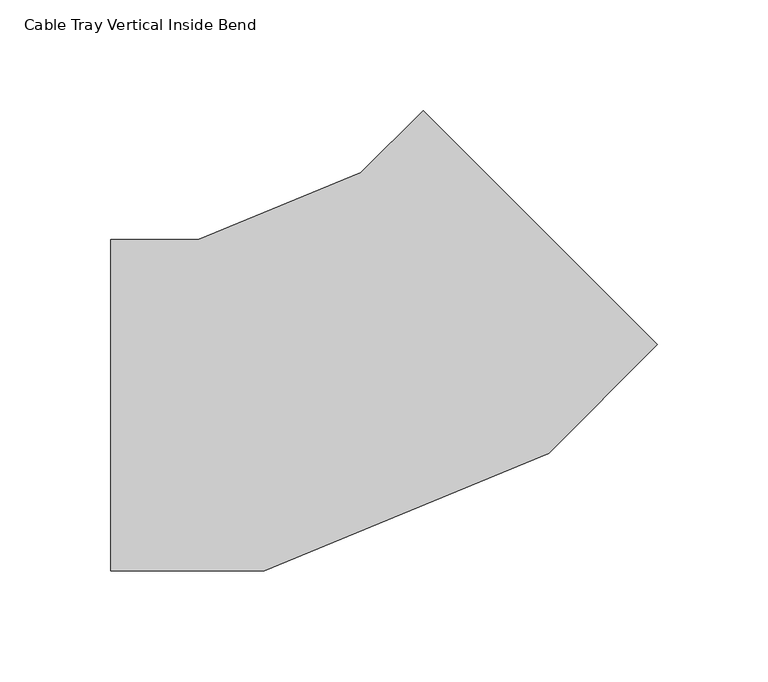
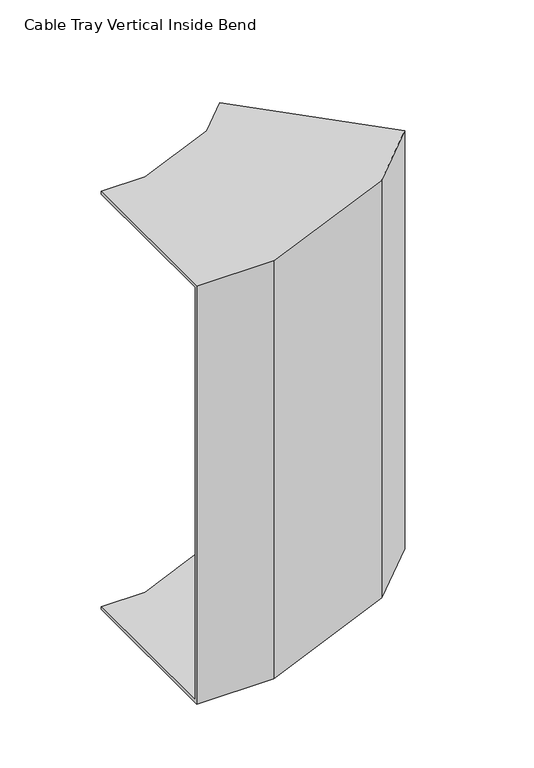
"""IFC4 building model written with IfcOpenShell, lengths in millimetres: cable carrier fitting geometry, Cable Tray Vertical Inside Bend : ELEC_ELV_TKG_N2402."""

from ifc_helpers import new_model, si_unit, origin, place, context, project, spatial, faceted_brep, source, transform, mapped, element, save


def cable_tray_vertical_inside_bend_96cfe16a(model_context):
    return source(origin(), model_context, "Body", "Brep", [
        faceted_brep([(-113.9087297, 75.0, 200.0), (-113.9087297, 75.0, 197.46), (-113.9087297, -72.46, 197.46), (-113.9087297, -72.46, -197.46), (-113.9087297, 75.0, -197.46), (-113.9087297, 75.0, -200.0), (-113.9087297, -75.0, -200.0), (-113.9087297, -75.0, 200.0), (27.5126266, 133.5786438, 200.0), (133.5786438, 27.5126266, 200.0), (133.5786438, 27.5126266, -200.0), (27.5126266, 133.5786438, -200.0), (27.5126266, 133.5786438, -197.46), (131.7825925, 29.3086778, -197.46), (131.7825925, 29.3086778, 197.46), (27.5126266, 133.5786438, 197.46), (-74.1262562, 75.0, 200.0), (-74.1262562, 75.0, 197.46), (-0.6178302, 105.448187, 197.46), (82.91155, -19.5623647, 197.46), (-44.7946385, -72.46, 197.46), (-44.7946385, -72.46, -197.46), (82.91155, -19.5623647, -197.46), (-0.6178302, 105.448187, -197.46), (-74.1262562, 75.0, -197.46), (-74.1262562, 75.0, -200.0), (-0.6178302, 105.448187, -200.0), (84.3503444, -21.7156728, -200.0), (-44.2894011, -75.0, -200.0), (-44.2894011, -75.0, 200.0), (84.3503444, -21.7156728, 200.0), (-0.6178302, 105.448187, 200.0)], [[[0, 1, 2, 3, 4, 5, 6, 7]], [[8, 9, 10, 11, 12, 13, 14, 15]], [[1, 0, 16, 17]], [[2, 1, 17, 18, 15, 14, 19, 20]], [[3, 2, 20, 21]], [[4, 3, 21, 22, 13, 12, 23, 24]], [[5, 4, 24, 25]], [[6, 5, 25, 26, 11, 10, 27, 28]], [[7, 6, 28, 29]], [[0, 7, 29, 30, 9, 8, 31, 16]], [[17, 16, 31, 18]], [[21, 20, 19, 22]], [[25, 24, 23, 26]], [[29, 28, 27, 30]], [[18, 31, 8, 15]], [[22, 19, 14, 13]], [[26, 23, 12, 11]], [[30, 27, 10, 9]]]),
    ])


if __name__ == "__main__":
    model = new_model("IFC4")
    model_context = context("Model", 3, world=origin())
    ifc_project = project(units=[si_unit("LENGTHUNIT", "METRE", prefix="MILLI")], contexts=[model_context])
    site = spatial("IfcSite", under=ifc_project)
    building = spatial("IfcBuilding", under=site)
    placement = place(None, origin())
    cable_tray_vertical_inside_bend_shape = cable_tray_vertical_inside_bend_96cfe16a(model_context)
    element("IfcCableCarrierFitting", 1, ObjectType="Cable Tray Vertical Inside Bend : ELEC_ELV_TKG_N2402", at=placement, inside=building, context=model_context, shape_type="MappedRepresentation", body=[
        mapped(cable_tray_vertical_inside_bend_shape, transform((0.0, 0.0, 0.0), x_axis=(1.0, 0.0, 0.0), y_axis=(0.0, 1.0, 0.0), z_axis=(0.0, 0.0, 1.0))),
    ])
    save(model, "model.ifc")
